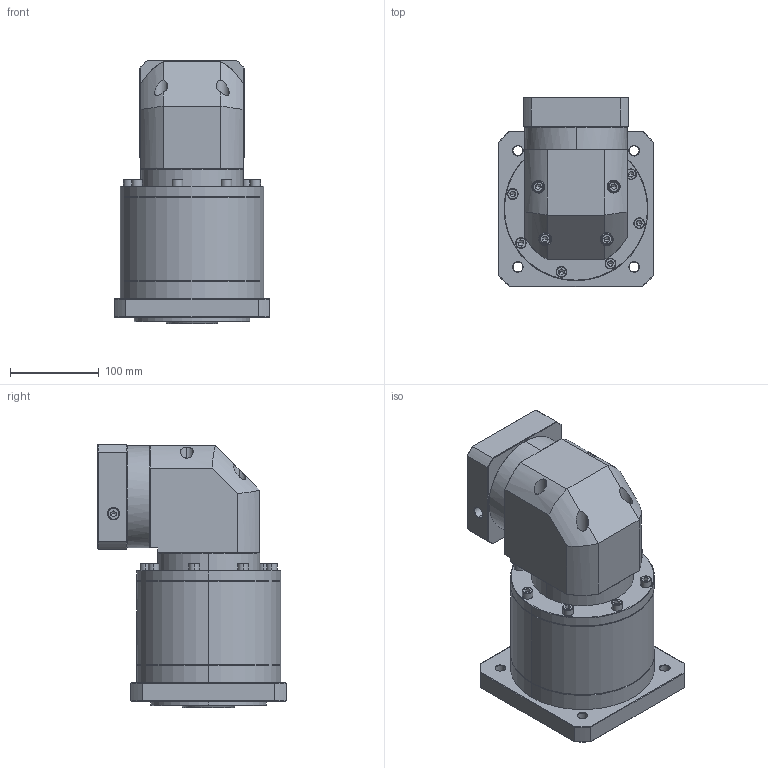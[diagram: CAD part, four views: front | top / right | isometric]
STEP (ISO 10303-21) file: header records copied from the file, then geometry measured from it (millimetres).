
FILE_DESCRIPTION (( 'STEP AP214' ), '1' );
FILE_NAME ('ZFR160A-K35-L3-P2-19-95-115-M6.step', '2023-09-03T09:45:07', ( '' ), ( '' ), 'SwSTEP 2.0', 'SolidWorks 2016', '' );
FILE_SCHEMA (( 'AUTOMOTIVE_DESIGN' ));
Length unit declared in the file: millimetre
Products named in the file (1): ZFR160A-K35-L3-P2-19-95-115-M6
Bounding box: 175 x 212.4 x 296.2 mm (x, y, z)
Volume: 5389968.5 mm3; surface area: 345167.5 mm2
Topology: 6 solids, 6 shells, 2401 faces, 6285 edges, 4009 vertices
Faces by surface type: plane 1138, cylinder 447, bspline 407, cone 365, torus 44
Entity records: 126772 total; most frequent: CARTESIAN_POINT 46368, ORIENTED_EDGE 12466, DIRECTION 9514, EDGE_CURVE 6233, VERTEX_POINT 4009, VECTOR 3364, LINE 3364, AXIS2_PLACEMENT_3D 3075
